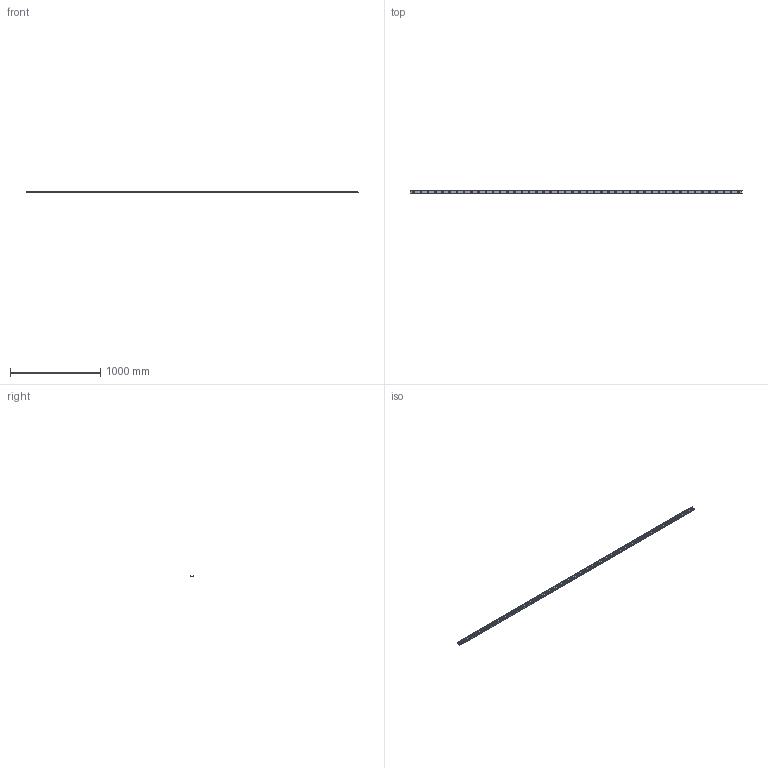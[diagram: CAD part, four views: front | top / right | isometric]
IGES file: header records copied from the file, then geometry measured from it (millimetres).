
Start section: SolidWorks IGES file using analytic representation for surfaces
Global section: file name: C:\Users\IanO\Desktop\43\L1943.ULV43_v2_20180121_IGES\L1943.ULV43-3680.igs; native system: SolidWorks 2017; preprocessor: SolidWorks 2017; author: IanO; date: 190121.090631; units: millimetre
Bounding box: 3680 x 43 x 21 mm (x, y, z)
Surface area: 570826.6 mm2 (no closed solid volume)
Topology: 0 solids, 0 shells, 210 faces, 3974 edges, 3974 vertices
Faces by surface type: revolution 197, bspline 13
